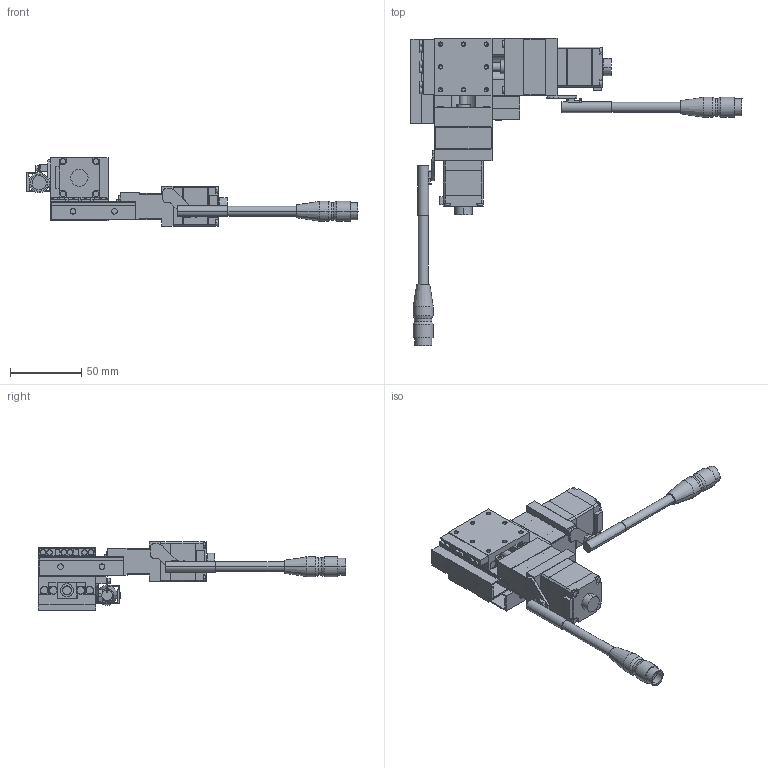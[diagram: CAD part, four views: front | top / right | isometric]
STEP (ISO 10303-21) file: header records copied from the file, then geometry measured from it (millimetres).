
FILE_DESCRIPTION(('STEP AP203'),'1');
FILE_NAME('C:/3D-Trans/3D_PMG413T-R□-T+240122.step','2024-03-14T06:30:28',(' '),(' '),'Spatial InterOp 3D',' ',' ');
FILE_SCHEMA(('CONFIG_CONTROL_DESIGN'));
Length unit declared in the file: millimetre
Products named in the file (12): 1; 2; 3; 4; 5; 6; 7; 8; 9; 10; 11; 12
Bounding box: 232.4 x 215 x 48 mm (x, y, z)
Volume: 178383 mm3; surface area: 82501.1 mm2
Topology: 12 solids, 12 shells, 1128 faces, 2830 edges, 1782 vertices
Faces by surface type: plane 674, cylinder 346, cone 108
Entity records: 33862 total; most frequent: DIRECTION 5930, CARTESIAN_POINT 5724, ORIENTED_EDGE 5580, EDGE_CURVE 2790, AXIS2_PLACEMENT_3D 2004, LINE 1922, VECTOR 1922, VERTEX_POINT 1782
